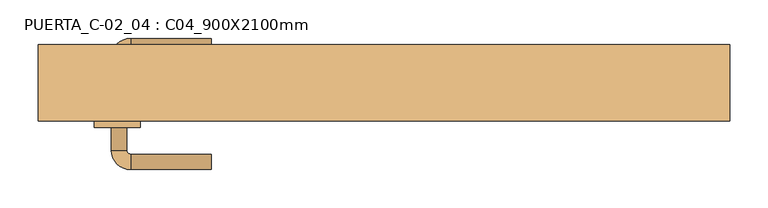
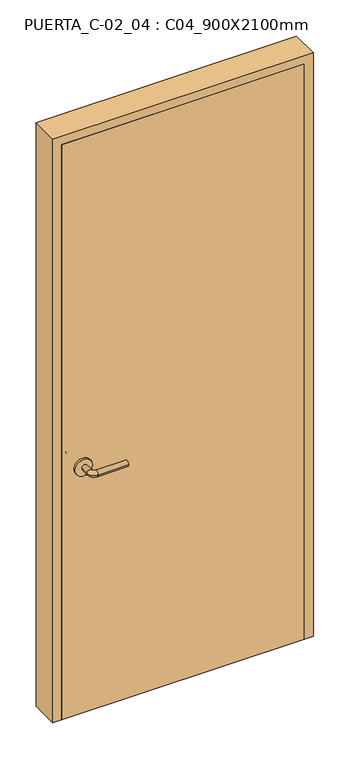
"""IFC4 building model written with IfcOpenShell, lengths in millimetres: door geometry, PUERTA_C-02_04 : C04_900X2100mm."""

import ifcopenshell
import ifcopenshell.guid

model = None  # the IFC model being written
_history = None  # IfcOwnerHistory: only IFC2X3 demands one
_inside = {}  # id of a spatial element -> (the spatial element, [elements in it])
_under = {}  # id of a project, library or spatial element -> (it, [spatial elements below it])
_declared = {}  # id of a project -> (the project, [libraries it declares])
_typed = {}  # id of a type object -> (the type object, [elements of that type])
_made_of = {}  # id of a material, layer set ... -> (it, [elements and type objects made of it])


def new_model(schema):
    """Start an empty IFC model of exactly this schema.

    Asked for "IFC4X3", IfcOpenShell would pick the latest addendum, in which some entities
    have other attributes; the version numbers below select the first issue.
    IFC2X3 requires an IfcOwnerHistory on every rooted entity: one is made here for all.
    """
    global model, _history
    if schema == "IFC4X3":
        model = ifcopenshell.file(schema_version=(4, 3, 0, 0))
    else:
        model = ifcopenshell.file(schema=schema)
    _inside.clear()
    _under.clear()
    _declared.clear()
    _typed.clear()
    _made_of.clear()
    _history = None
    if model.schema == "IFC2X3":
        org = make("IfcOrganization", Name="unknown")
        user = make(
            "IfcPersonAndOrganization",
            ThePerson=make("IfcPerson", FamilyName="unknown"),
            TheOrganization=org,
        )
        app = make(
            "IfcApplication",
            ApplicationDeveloper=org,
            Version="unknown",
            ApplicationFullName="unknown",
            ApplicationIdentifier="unknown",
        )
        _history = make(
            "IfcOwnerHistory",
            OwningUser=user,
            OwningApplication=app,
            ChangeAction="ADDED",
            CreationDate=0,
        )
    return model


def make(cls, **values):
    """One entity of the class cls with the attributes given. An attribute that is None is left unset."""
    return model.create_entity(
        cls, **{name: value for name, value in values.items() if value is not None}
    )


def rooted(cls, **values):
    """An entity with a GlobalId (a new one), such as an element, a storey or a relation."""
    return make(cls, GlobalId=ifcopenshell.guid.new(), OwnerHistory=_history, **values)


def si_unit(unit_type, name, prefix=None):
    """IfcSIUnit, for example si_unit("LENGTHUNIT", "METRE", prefix="MILLI")."""
    return make("IfcSIUnit", UnitType=unit_type, Prefix=prefix, Name=name)


def assignment(units):
    """IfcUnitAssignment: the units of a project."""
    return None if units is None else make("IfcUnitAssignment", Units=units)


def point(xyz):
    """IfcCartesianPoint."""
    return None if xyz is None else make("IfcCartesianPoint", Coordinates=xyz)


def direction(xyz):
    """IfcDirection."""
    return None if xyz is None else make("IfcDirection", DirectionRatios=xyz)


def frame(location, z_axis=None, x_axis=None):
    """IfcAxis2Placement3D, a coordinate frame: its origin and axes. An axis left out is left unset."""
    return make(
        "IfcAxis2Placement3D",
        Location=point(location),
        Axis=direction(z_axis),
        RefDirection=direction(x_axis),
    )


def frame_2d(location, x_axis=None):
    """IfcAxis2Placement2D, a coordinate frame in the plane: its origin and x axis."""
    return make(
        "IfcAxis2Placement2D", Location=point(location), RefDirection=direction(x_axis)
    )


def origin():
    """The frame at (0, 0, 0) with its axes left unset."""
    return frame((0.0, 0.0, 0.0))


def origin_with_axes():
    """The frame at (0, 0, 0) with the z axis (0, 0, 1) and the x axis (1, 0, 0) written out."""
    return frame((0.0, 0.0, 0.0), z_axis=(0.0, 0.0, 1.0), x_axis=(1.0, 0.0, 0.0))


def place(relative_to, where):
    """IfcLocalPlacement: puts the frame where relative to a parent placement (None: the world)."""
    return make(
        "IfcLocalPlacement", PlacementRelTo=relative_to, RelativePlacement=where
    )


def context(
    kind, dimensions, precision=None, world=None, true_north=None, identifier=None
):
    """IfcGeometricRepresentationContext, for example the 3D "Model" context."""
    return make(
        "IfcGeometricRepresentationContext",
        ContextIdentifier=identifier,
        ContextType=kind,
        CoordinateSpaceDimension=dimensions,
        Precision=precision,
        WorldCoordinateSystem=world,
        TrueNorth=true_north,
    )


def project(units=None, contexts=None):
    """IfcProject with its units and contexts."""
    return rooted(
        "IfcProject",
        Name="project",
        RepresentationContexts=contexts,
        UnitsInContext=assignment(units),
    )


def spatial(cls, under=None, at=None, **own):
    """A site, building, storey or space (cls), placed at a placement, below another one or the project."""
    s = rooted(cls, ObjectPlacement=at, **own)
    if under is not None:
        _under.setdefault(under.id(), (under, []))[1].append(s)
    return s


def polyline(points):
    """IfcPolyline through the points."""
    return make("IfcPolyline", Points=[point(p) for p in points])


def circle_curve(where, radius):
    """IfcCircle in the frame where."""
    return make("IfcCircle", Position=where, Radius=radius)


def ellipse_curve(where, semi_axis1, semi_axis2):
    """IfcEllipse in the frame where."""
    return make(
        "IfcEllipse", Position=where, SemiAxis1=semi_axis1, SemiAxis2=semi_axis2
    )


def trimmed(basis, trim1, trim2, sense, master):
    """IfcTrimmedCurve: the piece of a basis curve between two trims."""
    return make(
        "IfcTrimmedCurve",
        BasisCurve=basis,
        Trim1=trim1,
        Trim2=trim2,
        SenseAgreement=sense,
        MasterRepresentation=master,
    )


def segment(curve, same_sense, transition):
    """IfcCompositeCurveSegment."""
    return make(
        "IfcCompositeCurveSegment",
        Transition=transition,
        SameSense=same_sense,
        ParentCurve=curve,
    )


def composite_curve(segments, self_intersect=None):
    """IfcCompositeCurve: segments joined end to end."""
    return make("IfcCompositeCurve", Segments=segments, SelfIntersect=self_intersect)


def outline(outer, holes=None, kind="AREA"):
    """IfcArbitraryClosedProfileDef: a profile drawn as a closed curve; with holes, ...WithVoids."""
    if holes is None:
        return make("IfcArbitraryClosedProfileDef", ProfileType=kind, OuterCurve=outer)
    return make(
        "IfcArbitraryProfileDefWithVoids",
        ProfileType=kind,
        OuterCurve=outer,
        InnerCurves=holes,
    )


def extrude(swept, where, along, depth):
    """IfcExtrudedAreaSolid: the profile swept, set in the frame where, extruded along a direction by depth."""
    return make(
        "IfcExtrudedAreaSolid",
        SweptArea=swept,
        Position=where,
        ExtrudedDirection=direction(along),
        Depth=depth,
    )


def faces_of(points, faces, orient=None, outer=None):
    """IfcFace entities. A face is a list of loops; a loop is a list of indices into points, from 0.

    orient and outer hold one flag for each loop. By default every Orientation is true, the
    first loop of a face is its IfcFaceOuterBound and the others are IfcFaceBound.
    """
    made = []
    for i, loops in enumerate(faces):
        bounds = []
        for j, loop in enumerate(loops):
            is_outer = j == 0 if outer is None else outer[i][j]
            bounds.append(
                make(
                    "IfcFaceOuterBound" if is_outer else "IfcFaceBound",
                    Bound=make("IfcPolyLoop", Polygon=[points[k] for k in loop]),
                    Orientation=True if orient is None else orient[i][j],
                )
            )
        made.append(make("IfcFace", Bounds=bounds))
    return made


def faceted_brep(points, faces, orient=None, outer=None, voids=None):
    """IfcFacetedBrep: a solid bounded by flat faces; with voids (closed shells), ...WithVoids."""
    shared = [point(p) for p in points]
    hull = make("IfcClosedShell", CfsFaces=faces_of(shared, faces, orient, outer))
    if voids is None:
        return make("IfcFacetedBrep", Outer=hull)
    return make(
        "IfcFacetedBrepWithVoids",
        Outer=hull,
        Voids=[
            make(cls, CfsFaces=faces_of(shared, fs, o, b)) for cls, fs, o, b in voids
        ],
    )


def shape(context_of_items, identifier, shape_type, items):
    """IfcShapeRepresentation: the items that make up one representation, for example the "Body"."""
    return make(
        "IfcShapeRepresentation",
        ContextOfItems=context_of_items,
        RepresentationIdentifier=identifier,
        RepresentationType=shape_type,
        Items=items,
    )


def source(mapping_origin, context_of_items, identifier, shape_type, items):
    """IfcRepresentationMap: a shape defined once, which mapped items show again and again."""
    return make(
        "IfcRepresentationMap",
        MappingOrigin=mapping_origin,
        MappedRepresentation=shape(context_of_items, identifier, shape_type, items),
    )


def transform(
    local_origin,
    x_axis=None,
    y_axis=None,
    z_axis=None,
    scale=None,
    scale2=None,
    scale3=None,
    uniform=True,
):
    """IfcCartesianTransformationOperator3D, or its non-uniform kind. x_axis, y_axis, z_axis: its Axis1, 2, 3."""
    if uniform:
        return make(
            "IfcCartesianTransformationOperator3D",
            Axis1=direction(x_axis),
            Axis2=direction(y_axis),
            LocalOrigin=point(local_origin),
            Scale=scale,
            Axis3=direction(z_axis),
        )
    return make(
        "IfcCartesianTransformationOperator3DnonUniform",
        Axis1=direction(x_axis),
        Axis2=direction(y_axis),
        LocalOrigin=point(local_origin),
        Scale=scale,
        Axis3=direction(z_axis),
        Scale2=scale2,
        Scale3=scale3,
    )


def mapped(mapping_source, mapping_target):
    """IfcMappedItem: shows the shape of a source again, moved by a transform."""
    return make(
        "IfcMappedItem", MappingSource=mapping_source, MappingTarget=mapping_target
    )


def made_of(thing, what):
    """Note that an element or type object is made of a material, layer set ...; save() writes the relation."""
    if what is not None:
        _made_of.setdefault(what.id(), (what, []))[1].append(thing)
    return thing


def element(
    cls,
    number,
    at=None,
    inside=None,
    cuts=None,
    type_object=None,
    material=None,
    context=None,
    identifier="Body",
    shape_type=None,
    held_by="IfcProductDefinitionShape",
    body=None,
    shapes=None,
    **own,
):
    """One element of the class cls, such as IfcWall. Its Tag is "e" and its number.

    at: its placement. inside: the storey or other place that contains it. cuts: it is an
    opening in that element (IfcRelVoidsElement). A single representation is given by context,
    identifier, shape_type and body (its items); several are given by shapes. held_by: the class
    of the entity that holds the representations. save() writes the other relations.
    """
    e = rooted(cls, Tag="e%d" % number, ObjectPlacement=at, **own)
    if body is not None:
        shapes = [shape(context, identifier, shape_type, body)]
    if shapes is not None:
        e.Representation = make(held_by, Representations=shapes)
    if inside is not None:
        _inside.setdefault(inside.id(), (inside, []))[1].append(e)
    if cuts is not None:
        rooted(
            "IfcRelVoidsElement", RelatingBuildingElement=cuts, RelatedOpeningElement=e
        )
    if type_object is not None:
        _typed.setdefault(type_object.id(), (type_object, []))[1].append(e)
    return made_of(e, material)


def aggregate(whole, parts):
    """IfcRelAggregates: a whole, such as a stair, and the parts it consists of."""
    return rooted("IfcRelAggregates", RelatingObject=whole, RelatedObjects=parts)


def save(model, path):
    """Write the relations noted so far, then the file.

    IfcRelAggregates (storeys below a building ...), IfcRelContainedInSpatialStructure (elements
    in a storey), IfcRelDefinesByType, IfcRelAssociatesMaterial and IfcRelDeclares: one each for
    every whole, place, type object, material and project.
    """
    for whole, parts in _under.values():
        aggregate(whole, parts)
    for where, things in _inside.values():
        rooted(
            "IfcRelContainedInSpatialStructure",
            RelatedElements=things,
            RelatingStructure=where,
        )
    for kind, things in _typed.values():
        rooted("IfcRelDefinesByType", RelatedObjects=things, RelatingType=kind)
    for what, things in _made_of.values():
        rooted("IfcRelAssociatesMaterial", RelatedObjects=things, RelatingMaterial=what)
    for by, libraries in _declared.values():
        rooted("IfcRelDeclares", RelatingContext=by, RelatedDefinitions=libraries)
    model.write(path)


def plane_surface(at):
    """IfcPlane: the flat surface through the origin of the frame at, square to its z axis."""
    return make("IfcPlane", Position=at)


def cylinder_surface(at, radius):
    """IfcCylindricalSurface: all points at the distance radius from the z axis of the frame at."""
    return make("IfcCylindricalSurface", Position=at, Radius=radius)


def revolved_surface(curve, axis_point, axis_direction):
    """IfcSurfaceOfRevolution: the curve turned about the line through axis_point along axis_direction."""
    return make(
        "IfcSurfaceOfRevolution",
        SweptCurve=make("IfcArbitraryOpenProfileDef", ProfileType="CURVE", Curve=curve),
        AxisPosition=make("IfcAxis1Placement", Location=point(axis_point), Axis=direction(axis_direction)),
    )


def advanced_brep(points, edges, surfaces, faces):
    """IfcAdvancedBrep: a solid bounded by faces that lie on surfaces and meet in shared edges.

    An edge is (start, end): straight between two places in points (the first is 0);
    or (start, end, curve); or (start, end, curve, False) where it runs against its curve.
    A face is (place in surfaces, loops), or (place, loops, False) where it looks against
    its surface's normal. A loop lists edges by number (the first is 1), with a minus sign
    where the edge is run from its end to its start. The first loop is the outer one.
    """
    corners = [point(p) for p in points]
    vertices = [make("IfcVertexPoint", VertexGeometry=c) for c in corners]
    made = []
    for start, end, *more in edges:
        made.append(
            make(
                "IfcEdgeCurve",
                EdgeStart=vertices[start],
                EdgeEnd=vertices[end],
                EdgeGeometry=more[0] if more else make("IfcPolyline", Points=[corners[start], corners[end]]),
                SameSense=more[1] if len(more) > 1 else True,
            )
        )
    hull = []
    for where, loops, *sense in faces:
        bounds = []
        for j, loop in enumerate(loops):
            ring = [make("IfcOrientedEdge", EdgeElement=made[abs(k) - 1], Orientation=k > 0) for k in loop]
            bounds.append(
                make(
                    "IfcFaceOuterBound" if j == 0 else "IfcFaceBound",
                    Bound=make("IfcEdgeLoop", EdgeList=ring),
                    Orientation=True,
                )
            )
        hull.append(make("IfcAdvancedFace", Bounds=bounds, FaceSurface=surfaces[where], SameSense=sense[0] if sense else True))
    return make("IfcAdvancedBrep", Outer=make("IfcClosedShell", CfsFaces=hull))


def puerta_c_02_04_c04_900x2100mm_1a8049c7(model_context):
    return source(origin(), model_context, "Body", "SolidModel", [
        advanced_brep(
        [(-354.990625, -13.35, 900.0), (-334.990625, -13.35, 900.0), (-354.990625, 16.65, 900.0), (-334.990625, 16.65, 900.0), (-329.990625, 21.65, 900.0), (-329.990625, 41.65, 900.0), (-224.990625, 41.65, 900.0), (-224.990625, 21.65, 900.0)],
        [
            (0, 1, circle_curve(frame((-344.990625, -13.35, 900.0), z_axis=(0.0, -1.0, 0.0), x_axis=(1.0, 0.0, 0.0)), 10.0)),
            (1, 0, circle_curve(frame((-344.990625, -13.35, 900.0), z_axis=(0.0, -1.0, 0.0), x_axis=(1.0, 0.0, 0.0)), 10.0)),
            (0, 2),
            (2, 3, circle_curve(frame((-344.990625, 16.65, 900.0), z_axis=(0.0, -1.0, 0.0), x_axis=(1.0, 0.0, 0.0)), 10.0)),
            (3, 1),
            (3, 2, circle_curve(frame((-344.990625, 16.65, 900.0), z_axis=(0.0, -1.0, 0.0), x_axis=(1.0, 0.0, 0.0)), 10.0)),
            (4, 3, circle_curve(frame((-329.990625, 16.65, 900.0), z_axis=(0.0, 0.0, 1.0), x_axis=(-1.0, 0.0, 0.0)), 5.0)),
            (2, 5, circle_curve(frame((-329.990625, 16.65, 900.0), z_axis=(0.0, 0.0, -1.0), x_axis=(-1.0, 0.0, 0.0)), 25.0)),
            (5, 4, circle_curve(frame((-329.990625, 31.65, 900.0), z_axis=(-1.0, 0.0, 0.0), x_axis=(0.0, -1.0, 0.0)), 10.0)),
            (4, 5, circle_curve(frame((-329.990625, 31.65, 900.0), z_axis=(-1.0, 0.0, 0.0), x_axis=(0.0, -1.0, 0.0)), 10.0)),
            (6, 7, circle_curve(frame((-224.990625, 31.65, 900.0), z_axis=(1.0, 0.0, 0.0), x_axis=(0.0, -1.0, 0.0)), 10.0)),
            (7, 6, circle_curve(frame((-224.990625, 31.65, 900.0), z_axis=(1.0, 0.0, 0.0), x_axis=(0.0, -1.0, 0.0)), 10.0)),
            (5, 6),
            (7, 4),
        ],
        [
            plane_surface(frame((-344.990625, -13.35, 900.0), z_axis=(0.0, -1.0, 0.0), x_axis=(0.0, 0.0, 1.0))),
            cylinder_surface(frame((-344.990625, -13.35, 900.0), z_axis=(0.0, -1.0, 0.0), x_axis=(1.0, 0.0, 0.0)), 10.0),
            revolved_surface(trimmed(ellipse_curve(frame((-344.990625, 16.65, 900.0), z_axis=(0.0, -1.0, 0.0), x_axis=(1.0, 0.0, 0.0)), 10.0, 10.0), [point((-354.990625, 16.65, 900.0))], [point((-334.990625, 16.65, 900.0))], True, "CARTESIAN"), (-329.990625, 16.65, 900.0), (0.0, 0.0, -1.0)),
            revolved_surface(trimmed(ellipse_curve(frame((-344.990625, 16.65, 900.0), z_axis=(0.0, -1.0, 0.0), x_axis=(1.0, 0.0, 0.0)), 10.0, 10.0), [point((-334.990625, 16.65, 900.0))], [point((-354.990625, 16.65, 900.0))], True, "CARTESIAN"), (-329.990625, 16.65, 900.0), (0.0, 0.0, -1.0)),
            plane_surface(frame((-224.990625, 31.65, 900.0), z_axis=(1.0, 0.0, 0.0), x_axis=(0.0, 0.0, 1.0))),
            cylinder_surface(frame((-329.990625, 31.65, 900.0), z_axis=(-1.0, 0.0, 0.0), x_axis=(0.0, -1.0, 0.0)), 10.0),
        ],
        [
            (0, [[1, 2]]),
            (1, [[-1, 3, 4, 5]]),
            (1, [[-2, -5, 6, -3]]),
            (2, [[7, -4, 8, 9]]),
            (3, [[-8, -6, -7, 10]]),
            (4, [[11, 12]]),
            (5, [[-9, 13, -12, 14]]),
            (5, [[-10, -14, -11, -13]]),
        ],
    ),
        extrude(outline(composite_curve([segment(trimmed(circle_curve(frame_2d((900.0, -347.490625)), 30.0), [point((900.0, -377.490625))], [point((900.0, -317.490625))], False, "CARTESIAN"), True, "CONTINUOUS"), segment(trimmed(circle_curve(frame_2d((900.0, -347.490625)), 30.0), [point((900.0, -317.490625))], [point((900.0, -377.490625))], False, "CARTESIAN"), True, "CONTINUOUS")], self_intersect=False)), frame((0.0, -21.35, 0.0), z_axis=(0.0, 1.0, 0.0), x_axis=(0.0, 0.0, 1.0)), (0.0, 0.0, 1.0), 8.0),
        advanced_brep(
        [(-354.990625, -74.35, 900.0), (-334.990625, -74.35, 900.0), (-334.990625, -104.35, 900.0), (-354.990625, -104.35, 900.0), (-329.990625, -109.35, 900.0), (-329.990625, -129.35, 900.0), (-224.990625, -129.35, 900.0), (-224.990625, -109.35, 900.0)],
        [
            (0, 1, circle_curve(frame((-344.990625, -74.35, 900.0), z_axis=(0.0, 1.0, 0.0), x_axis=(1.0, 0.0, 0.0)), 10.0)),
            (1, 0, circle_curve(frame((-344.990625, -74.35, 900.0), z_axis=(0.0, 1.0, 0.0), x_axis=(1.0, 0.0, 0.0)), 10.0)),
            (1, 2),
            (2, 3, circle_curve(frame((-344.990625, -104.35, 900.0), z_axis=(0.0, 1.0, 0.0), x_axis=(1.0, 0.0, 0.0)), 10.0)),
            (3, 0),
            (3, 2, circle_curve(frame((-344.990625, -104.35, 900.0), z_axis=(0.0, 1.0, 0.0), x_axis=(1.0, 0.0, 0.0)), 10.0)),
            (4, 5, circle_curve(frame((-329.990625, -119.35, 900.0), z_axis=(-1.0, 0.0, 0.0), x_axis=(0.0, 1.0, 0.0)), 10.0)),
            (5, 3, circle_curve(frame((-329.990625, -104.35, 900.0), z_axis=(0.0, 0.0, -1.0), x_axis=(-1.0, 0.0, 0.0)), 25.0)),
            (2, 4, circle_curve(frame((-329.990625, -104.35, 900.0), z_axis=(0.0, 0.0, 1.0), x_axis=(-1.0, 0.0, 0.0)), 5.0)),
            (5, 4, circle_curve(frame((-329.990625, -119.35, 900.0), z_axis=(-1.0, 0.0, 0.0), x_axis=(0.0, 1.0, 0.0)), 10.0)),
            (6, 7, circle_curve(frame((-224.990625, -119.35, 900.0), z_axis=(1.0, 0.0, 0.0), x_axis=(0.0, 1.0, 0.0)), 10.0)),
            (7, 6, circle_curve(frame((-224.990625, -119.35, 900.0), z_axis=(1.0, 0.0, 0.0), x_axis=(0.0, 1.0, 0.0)), 10.0)),
            (4, 7),
            (6, 5),
        ],
        [
            plane_surface(frame((-344.990625, -74.35, 900.0), z_axis=(0.0, 1.0, 0.0), x_axis=(0.0, 0.0, 1.0))),
            cylinder_surface(frame((-344.990625, -74.35, 900.0), z_axis=(0.0, 1.0, 0.0), x_axis=(1.0, 0.0, 0.0)), 10.0),
            revolved_surface(trimmed(ellipse_curve(frame((-344.990625, -104.35, 900.0), z_axis=(0.0, -1.0, 0.0), x_axis=(1.0, 0.0, 0.0)), 10.0, 10.0), [point((-354.990625, -104.35, 900.0))], [point((-334.990625, -104.35, 900.0))], True, "CARTESIAN"), (-329.990625, -104.35, 900.0), (0.0, 0.0, -1.0)),
            revolved_surface(trimmed(ellipse_curve(frame((-344.990625, -104.35, 900.0), z_axis=(0.0, -1.0, 0.0), x_axis=(1.0, 0.0, 0.0)), 10.0, 10.0), [point((-334.990625, -104.35, 900.0))], [point((-354.990625, -104.35, 900.0))], True, "CARTESIAN"), (-329.990625, -104.35, 900.0), (0.0, 0.0, -1.0)),
            plane_surface(frame((-224.990625, -119.35, 900.0), z_axis=(1.0, 0.0, 0.0), x_axis=(0.0, 0.0, 1.0))),
            cylinder_surface(frame((-329.990625, -119.35, 900.0), z_axis=(-1.0, 0.0, 0.0), x_axis=(0.0, 1.0, 0.0)), 10.0),
        ],
        [
            (0, [[1, 2]]),
            (1, [[3, 4, 5, -2]]),
            (1, [[-5, 6, -3, -1]]),
            (2, [[7, 8, -4, 9]]),
            (3, [[10, -9, -6, -8]]),
            (4, [[11, 12]]),
            (5, [[13, -11, 14, -7]]),
            (5, [[-14, -12, -13, -10]]),
        ],
    ),
        extrude(outline(composite_curve([segment(trimmed(circle_curve(frame_2d((900.0, -347.490625)), 30.0), [point((900.0, -377.490625))], [point((900.0, -317.490625))], False, "CARTESIAN"), True, "CONTINUOUS"), segment(trimmed(circle_curve(frame_2d((900.0, -347.490625)), 30.0), [point((900.0, -317.490625))], [point((900.0, -377.490625))], False, "CARTESIAN"), True, "CONTINUOUS")], self_intersect=False)), frame((0.0, -74.35, 0.0), z_axis=(0.0, 1.0, 0.0), x_axis=(0.0, 0.0, 1.0)), (0.0, 0.0, 1.0), 8.0),
        faceted_brep([(420.0, -33.1875, 0.0), (404.125, -33.1875, 0.0), (404.125, 33.65, 0.0), (450.0, 33.65, 0.0), (450.0, -66.35, 0.0), (420.0, -66.35, 0.0), (420.0, -66.35, 2100.0), (420.0, -33.1875, 2100.0), (450.0, -66.35, 2130.0), (-450.0, -66.35, 2130.0), (-450.0, -66.35, 0.0), (-420.0, -66.35, 0.0), (-420.0, -66.35, 2100.0), (450.0, 33.65, 2130.0), (404.125, 33.65, 2084.125), (-404.125, 33.65, 2084.125), (-404.125, 33.65, 0.0), (-450.0, 33.65, 0.0), (-450.0, 33.65, 2130.0), (404.125, -33.1875, 2084.125), (-420.0, -33.1875, 2100.0), (-420.0, -33.1875, 0.0), (-404.125, -33.1875, 0.0), (-404.125, -33.1875, 2084.125)], [[[0, 1, 2, 3, 4, 5]], [[5, 6, 7, 0]], [[4, 8, 9, 10, 11, 12, 6, 5]], [[3, 13, 8, 4]], [[2, 14, 15, 16, 17, 18, 13, 3]], [[1, 19, 14, 2]], [[0, 7, 20, 21, 22, 23, 19, 1]], [[6, 12, 20, 7]], [[13, 18, 9, 8]], [[19, 23, 15, 14]], [[21, 11, 10, 17, 16, 22]], [[12, 11, 21, 20]], [[18, 17, 10, 9]], [[23, 22, 16, 15]]]),
        extrude(outline(polyline([(420.0, -21.35), (420.0, -66.35), (-420.0, -66.35), (-420.0, -21.35), (420.0, -21.35)])), origin_with_axes(), (0.0, 0.0, 1.0), 2100.0),
    ])


if __name__ == "__main__":
    model = new_model("IFC4")
    model_context = context("Model", 3, world=origin())
    ifc_project = project(units=[si_unit("LENGTHUNIT", "METRE", prefix="MILLI")], contexts=[model_context])
    site = spatial("IfcSite", under=ifc_project)
    building = spatial("IfcBuilding", under=site)
    placement = place(None, origin())
    puerta_c_02_04_c04_900x2100mm_shape = puerta_c_02_04_c04_900x2100mm_1a8049c7(model_context)
    element("IfcDoor", 1, ObjectType="PUERTA_C-02_04 : C04_900X2100mm", at=placement, inside=building, context=model_context, shape_type="MappedRepresentation", body=[
        mapped(puerta_c_02_04_c04_900x2100mm_shape, transform((0.0, 0.0, 0.0), x_axis=(1.0, 0.0, 0.0), y_axis=(0.0, 1.0, 0.0), z_axis=(0.0, 0.0, 1.0))),
    ])
    save(model, "model.ifc")
